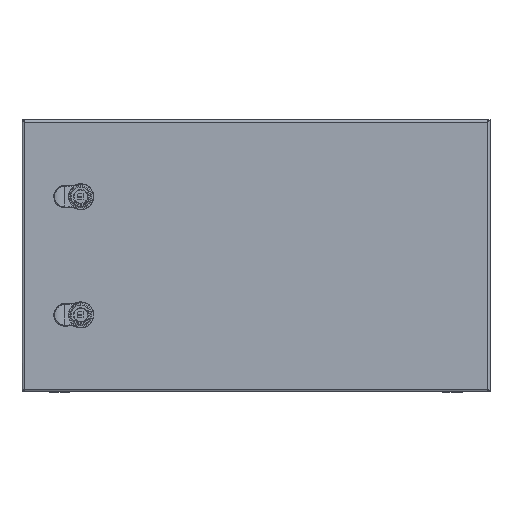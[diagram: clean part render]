
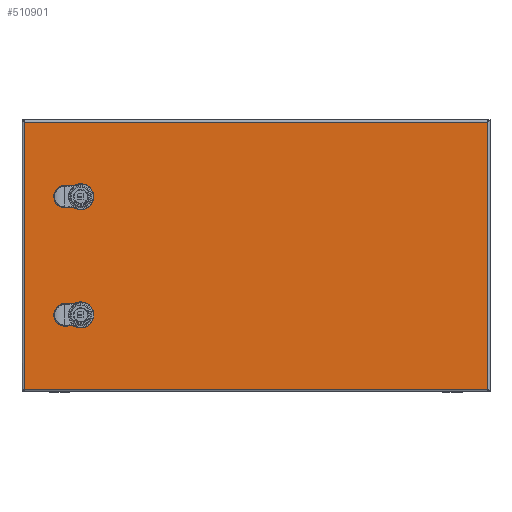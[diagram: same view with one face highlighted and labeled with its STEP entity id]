
A CAD part, top view. The second image highlights one B-rep face of the part: STEP entity #510901.
In plain terms, the highlighted planar face has unit normal (0, 0, 1).
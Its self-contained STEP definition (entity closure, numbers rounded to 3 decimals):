
#505151=CARTESIAN_POINT(' ',(289.389,172.733,228.253));
#505152=VERTEX_POINT(' ',#505151);
#505816=CARTESIAN_POINT(' ',(289.389,-166.667,228.253));
#505817=VERTEX_POINT(' ',#505816);
#506661=CARTESIAN_POINT(' ',(289.389,172.733,228.253));
#506666=DIRECTION(' ',(0.,-1.,0.));
#506671=VECTOR(' ',#506666,1.);
#506676=LINE('',#506661,#506671);
#506681=EDGE_CURVE(' ',#505152,#505817,#506676,.T.);
#508666=CARTESIAN_POINT(' ',(-299.011,-166.667,228.253));
#508667=VERTEX_POINT(' ',#508666);
#509101=CARTESIAN_POINT(' ',(-299.011,172.733,228.253));
#509102=VERTEX_POINT(' ',#509101);
#510771=DIRECTION(' ',(-0.,-0.,1.));
#510776=CARTESIAN_POINT(' ',(289.389,-166.667,228.253));
#510781=DIRECTION(' ',(0.,1.,0.));
#510786=AXIS2_PLACEMENT_3D(' ',#510776,#510771,#510781);
#510791=PLANE('NONE',#510786);
#510796=CARTESIAN_POINT(' ',(-299.011,-166.667,228.253));
#510801=DIRECTION(' ',(1.,0.,0.));
#510806=VECTOR(' ',#510801,1.);
#510811=LINE('',#510796,#510806);
#510816=EDGE_CURVE(' ',#508667,#505817,#510811,.T.);
#510821=ORIENTED_EDGE(' ',*,*,#510816,.T.);
#510826=ORIENTED_EDGE(' ',*,*,#506681,.F.);
#510831=CARTESIAN_POINT(' ',(289.389,172.733,228.253));
#510836=DIRECTION(' ',(-1.,0.,0.));
#510841=VECTOR(' ',#510836,1.);
#510846=LINE('',#510831,#510841);
#510851=EDGE_CURVE(' ',#505152,#509102,#510846,.T.);
#510856=ORIENTED_EDGE(' ',*,*,#510851,.T.);
#510861=CARTESIAN_POINT(' ',(-299.011,172.733,228.253));
#510866=DIRECTION(' ',(0.,-1.,0.));
#510871=VECTOR(' ',#510866,1.);
#510876=LINE('',#510861,#510871);
#510881=EDGE_CURVE(' ',#509102,#508667,#510876,.T.);
#510886=ORIENTED_EDGE(' ',*,*,#510881,.T.);
#510891=EDGE_LOOP(' ',(#510821,#510826,#510856,#510886));
#510896=FACE_OUTER_BOUND(' ',#510891,.T.);
#510901=ADVANCED_FACE('NONE',(#510896),#510791,.T.);
